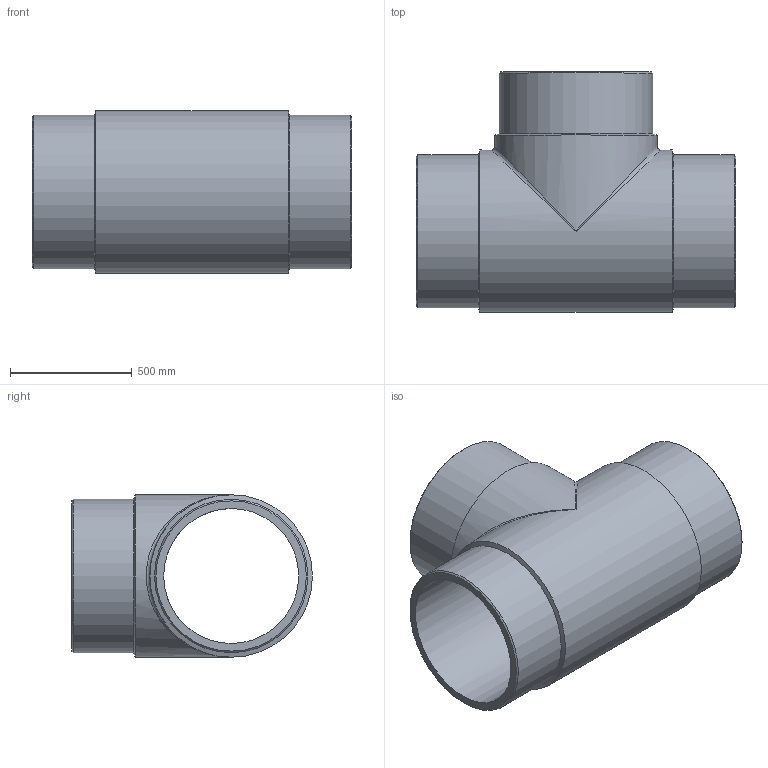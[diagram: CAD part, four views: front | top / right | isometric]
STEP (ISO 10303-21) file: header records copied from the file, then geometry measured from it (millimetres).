
FILE_DESCRIPTION(/* description */ ('Unknown'),/* implementation_level */ '2;1');
FILE_NAME(/* name */ 'TP630B',/* time_stamp */ '2023-01-24T17:48:08+01:00',/* author */ ('Unknown'),/* organization */ ('Unknown'),/* preprocessor_version */ 'ST-DEVELOPER v18.1',/* originating_system */ 'Solid Edge',/* authorisation */ 'Unknown');
FILE_SCHEMA (('AUTOMOTIVE_DESIGN {1 0 10303 214 3 1 1}'));
Length unit declared in the file: millimetre
Products named in the file (1): TP630B
Bounding box: 1312 x 990 x 668 mm (x, y, z)
Volume: 140900287.6 mm3; surface area: 6229052 mm2
Topology: 1 solids, 1 shells, 18 faces, 44 edges, 23 vertices
Faces by surface type: cylinder 7, cone 6, plane 3, bspline 2
Full cylindrical faces by diameter (mm): 555.2 x2, 630 x3, 668 x2
Entity records: 528 total; most frequent: CARTESIAN_POINT 171, DIRECTION 76, ORIENTED_EDGE 42, AXIS2_PLACEMENT_3D 38, EDGE_LOOP 36, FACE_BOUND 36, EDGE_CURVE 21, VERTEX_POINT 19
